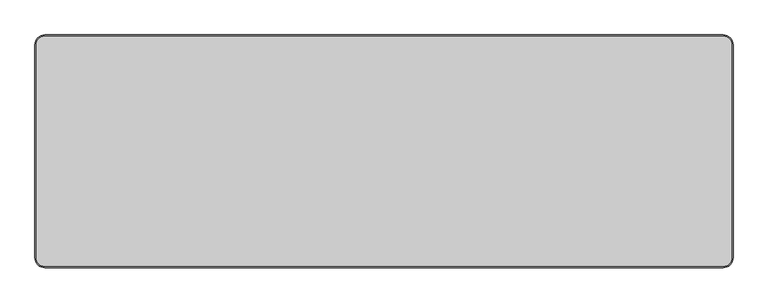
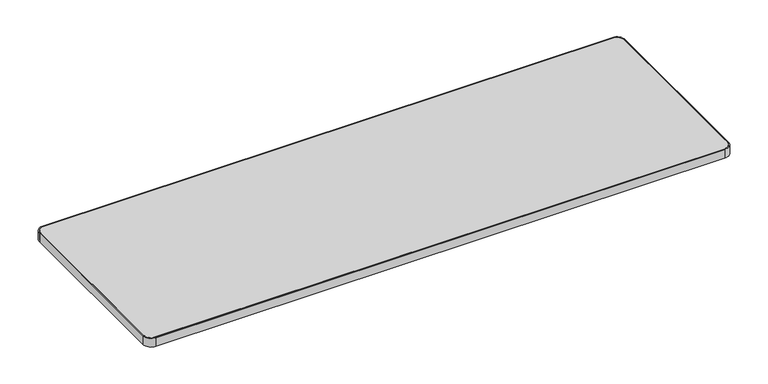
"""IFC4 building model written with IfcOpenShell, lengths in millimetres: furniture geometry, Steelcase - Groupwork - Table - Top - Rectangular : 24D x 72W - HPL."""

from ifc_helpers import new_model, si_unit, point, frame, frame_2d, origin, place, context, project, spatial, polyline, circle_curve, trimmed, segment, composite_curve, outline, extrude, source, transform, mapped, element, save


def furniture_995549ce(model_context):
    return source(origin(), model_context, "Body", "SweptSolid", [
        extrude(outline(composite_curve([segment(polyline([(-916.94, 301.8), (860.14, 301.8)]), True, "CONTINUOUS"), segment(trimmed(circle_curve(frame_2d((860.14, 278.94)), 22.86), [point((860.14, 301.8))], [point((883.0, 278.94))], False, "CARTESIAN"), True, "CONTINUOUS"), segment(polyline([(883.0, 278.94), (883.0, -278.94)]), True, "CONTINUOUS"), segment(trimmed(circle_curve(frame_2d((860.14, -278.94)), 22.86), [point((883.0, -278.94))], [point((860.14, -301.8))], False, "CARTESIAN"), True, "CONTINUOUS"), segment(polyline([(860.14, -301.8), (-916.94, -301.8)]), True, "CONTINUOUS"), segment(trimmed(circle_curve(frame_2d((-916.94, -278.94)), 22.86), [point((-916.94, -301.8))], [point((-939.8, -278.94))], False, "CARTESIAN"), True, "CONTINUOUS"), segment(polyline([(-939.8, -278.94), (-939.8, 278.94)]), True, "CONTINUOUS"), segment(trimmed(circle_curve(frame_2d((-916.94, 278.94)), 22.86), [point((-939.8, 278.94))], [point((-916.94, 301.8))], False, "CARTESIAN"), True, "CONTINUOUS")], self_intersect=False)), frame((0.0, 0.0, 694.944), z_axis=(0.0, 0.0, 1.0), x_axis=(1.0, 0.0, 0.0)), (0.0, 0.0, 1.0), 28.956),
        extrude(outline(composite_curve([segment(trimmed(circle_curve(frame_2d((860.5385373, 279.3385373)), 25.4614627), [point((860.5385373, 304.8))], [point((886.0, 279.3385373))], False, "CARTESIAN"), True, "CONTINUOUS"), segment(polyline([(886.0, 279.3385373), (886.0, -279.4211297)]), True, "CONTINUOUS"), segment(trimmed(circle_curve(frame_2d((860.6211297, -279.4211297)), 25.3788703), [point((886.0, -279.4211297))], [point((860.6211297, -304.8))], False, "CARTESIAN"), True, "CONTINUOUS"), segment(polyline([(860.6211297, -304.8), (-917.4, -304.8)]), True, "CONTINUOUS"), segment(trimmed(circle_curve(frame_2d((-917.4, -279.4)), 25.4), [point((-917.4, -304.8))], [point((-942.8, -279.4))], False, "CARTESIAN"), True, "CONTINUOUS"), segment(polyline([(-942.8, -279.4), (-942.8, 279.4)]), True, "CONTINUOUS"), segment(trimmed(circle_curve(frame_2d((-917.4, 279.4)), 25.4), [point((-942.8, 279.4))], [point((-917.4, 304.8))], False, "CARTESIAN"), True, "CONTINUOUS"), segment(polyline([(-917.4, 304.8), (860.5385373, 304.8)]), True, "CONTINUOUS")], self_intersect=False), holes=[composite_curve([segment(polyline([(860.2064662, 301.8), (-916.94, 301.8)]), True, "CONTINUOUS"), segment(trimmed(circle_curve(frame_2d((-916.94, 278.94)), 22.86), [point((-916.94, 301.8))], [point((-939.8, 278.94))], True, "CARTESIAN"), True, "CONTINUOUS"), segment(polyline([(-939.8, 278.94), (-939.8, -278.94)]), True, "CONTINUOUS"), segment(trimmed(circle_curve(frame_2d((-916.94, -278.94)), 22.86), [point((-939.8, -278.94))], [point((-916.94, -301.8))], True, "CARTESIAN"), True, "CONTINUOUS"), segment(polyline([(-916.94, -301.8), (859.973488, -301.8)]), True, "CONTINUOUS"), segment(trimmed(circle_curve(frame_2d((859.973488, -278.773488)), 23.026512), [point((859.973488, -301.8))], [point((883.0, -278.773488))], True, "CARTESIAN"), True, "CONTINUOUS"), segment(polyline([(883.0, -278.773488), (883.0, 279.0064662)]), True, "CONTINUOUS"), segment(trimmed(circle_curve(frame_2d((860.2064662, 279.0064662)), 22.7935338), [point((883.0, 279.0064662))], [point((860.2064662, 301.8))], True, "CARTESIAN"), True, "CONTINUOUS")], self_intersect=False)]), frame((0.0, 0.0, 694.944), z_axis=(0.0, 0.0, 1.0), x_axis=(1.0, 0.0, 0.0)), (0.0, 0.0, 1.0), 28.956),
    ])


if __name__ == "__main__":
    model = new_model("IFC4")
    model_context = context("Model", 3, world=origin())
    ifc_project = project(units=[si_unit("LENGTHUNIT", "METRE", prefix="MILLI")], contexts=[model_context])
    site = spatial("IfcSite", under=ifc_project)
    building = spatial("IfcBuilding", under=site)
    placement = place(None, origin())
    furniture_shape = furniture_995549ce(model_context)
    element("IfcFurniture", 1, ObjectType="Steelcase - Groupwork - Table - Top - Rectangular : 24D x 72W - HPL", at=placement, inside=building, context=model_context, shape_type="MappedRepresentation", body=[
        mapped(furniture_shape, transform((0.0, 0.0, 0.0), x_axis=(1.0, 0.0, 0.0), y_axis=(0.0, 1.0, 0.0), z_axis=(0.0, 0.0, 1.0))),
    ])
    save(model, "model.ifc")
